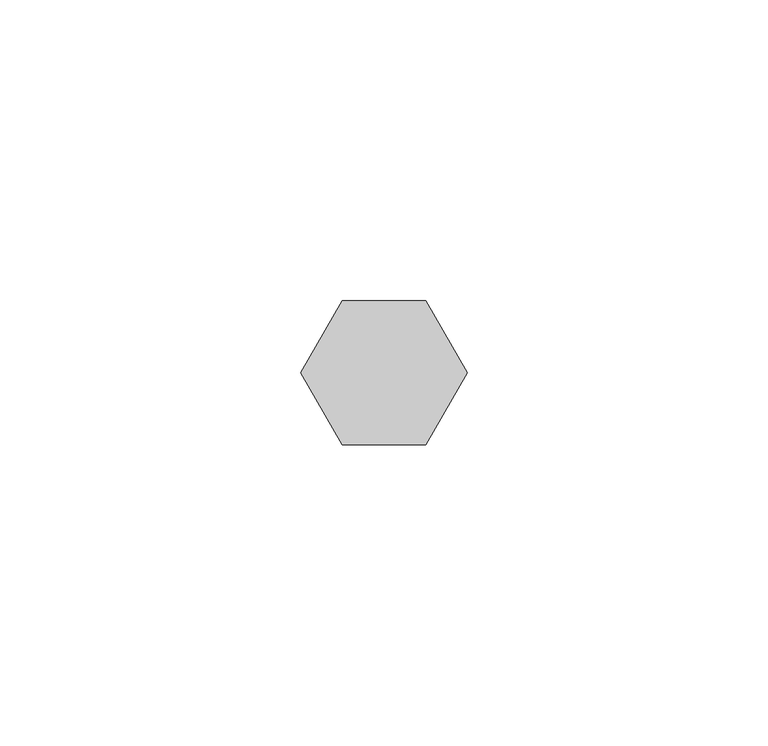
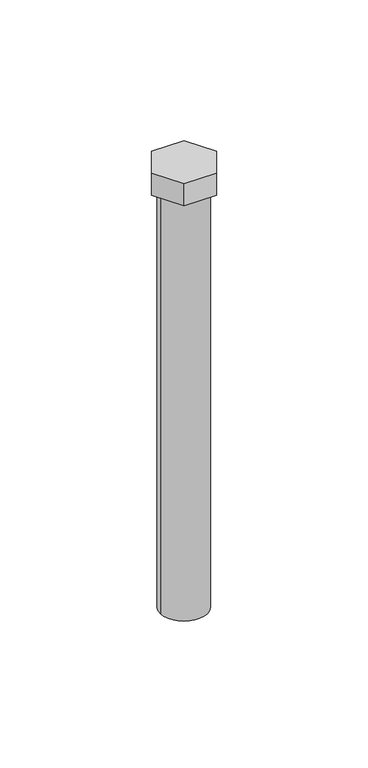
"""IFC4 building model written with IfcOpenShell, lengths in millimetres: proxy geometry, parafuso : TIPO 2 MENOR."""

from ifc_helpers import new_model, si_unit, point, frame, origin, origin_2d, place, context, project, spatial, polyline, circle_curve, trimmed, segment, composite_curve, outline, extrude, source, transform, mapped, element, save


def generic_models_129ac0f9(model_context):
    return source(origin(), model_context, "Body", "SweptSolid", [
        extrude(outline(polyline([(-13.8564065, 0.0), (-6.9282032, 12.0), (6.9282032, 12.0), (13.8564065, 0.0), (6.9282032, -12.0), (-6.9282032, -12.0), (-13.8564065, 0.0)])), frame((0.0, 0.0, 0.0108462), z_axis=(0.0, 0.0, 1.0), x_axis=(1.0, 0.0, 0.0)), (0.0, 0.0, 1.0), 10.0),
        extrude(outline(composite_curve([segment(trimmed(circle_curve(origin_2d(), 10.0), [point((-10.0, 0.0))], [point((10.0, 0.0))], False, "CARTESIAN"), True, "CONTINUOUS"), segment(trimmed(circle_curve(origin_2d(), 10.0), [point((10.0, 0.0))], [point((-10.0, 0.0))], False, "CARTESIAN"), True, "CONTINUOUS")], self_intersect=False)), frame((0.0, 0.0, -190.0), z_axis=(0.0, 0.0, 1.0), x_axis=(1.0, 0.0, 0.0)), (0.0, 0.0, 1.0), 190.0108462),
    ])


if __name__ == "__main__":
    model = new_model("IFC4")
    model_context = context("Model", 3, world=origin())
    ifc_project = project(units=[si_unit("LENGTHUNIT", "METRE", prefix="MILLI")], contexts=[model_context])
    site = spatial("IfcSite", under=ifc_project)
    building = spatial("IfcBuilding", under=site)
    placement = place(None, origin())
    generic_models_shape = generic_models_129ac0f9(model_context)
    element("IfcBuildingElementProxy", 1, Name="parafuso : TIPO 2 MENOR", ObjectType="parafuso : TIPO 2 MENOR", at=placement, inside=building, context=model_context, shape_type="MappedRepresentation", body=[
        mapped(generic_models_shape, transform((0.0, 0.0, 0.0), x_axis=(1.0, 0.0, 0.0), y_axis=(0.0, 1.0, 0.0), z_axis=(0.0, 0.0, 1.0))),
    ])
    save(model, "model.ifc")
